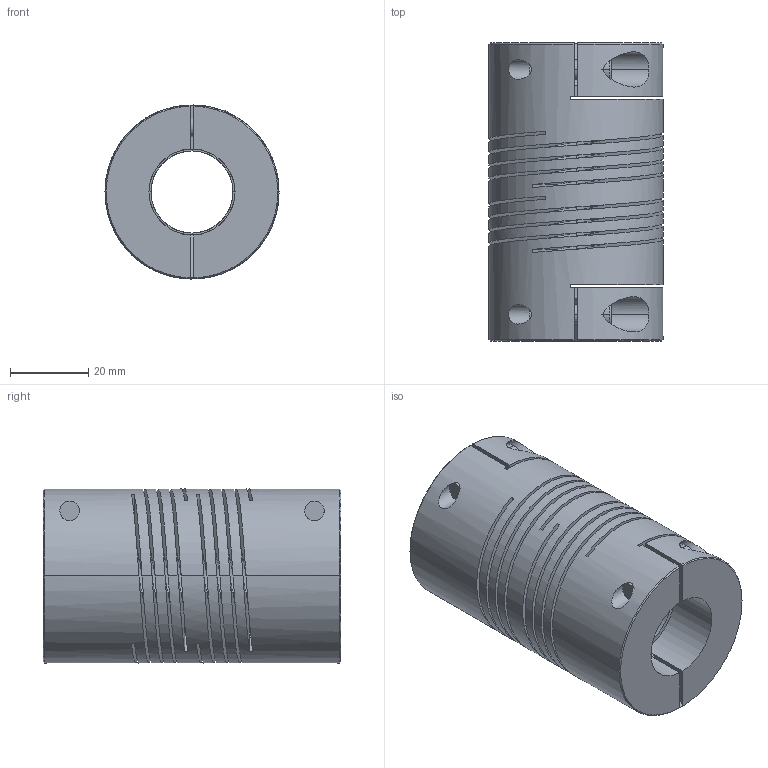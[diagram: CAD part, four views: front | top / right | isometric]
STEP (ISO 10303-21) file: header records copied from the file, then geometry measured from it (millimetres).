
FILE_DESCRIPTION((''),'2;1');
FILE_NAME('707_44','2006-12-06T',('Gary Melling'),(''),'PRO/ENGINEER BY PARAMETRIC TECHNOLOGY CORPORATION, 2006240','PRO/ENGINEER BY PARAMETRIC TECHNOLOGY CORPORATION, 2006240','');
FILE_SCHEMA(('CONFIG_CONTROL_DESIGN'));
Length unit declared in the file: millimetre
Products named in the file (1): 707_44
Bounding box: 44.5 x 76.2 x 44.5 mm (x, y, z)
Volume: 80554.4 mm3; surface area: 40668.7 mm2
Topology: 1 solids, 1 shells, 120 faces, 354 edges, 232 vertices
Faces by surface type: plane 56, cylinder 46, bspline 12, cone 6
Entity records: 6237 total; most frequent: CARTESIAN_POINT 3143, ORIENTED_EDGE 708, DIRECTION 532, EDGE_CURVE 354, VERTEX_POINT 232, VECTOR 188, LINE 188, AXIS2_PLACEMENT_3D 172
